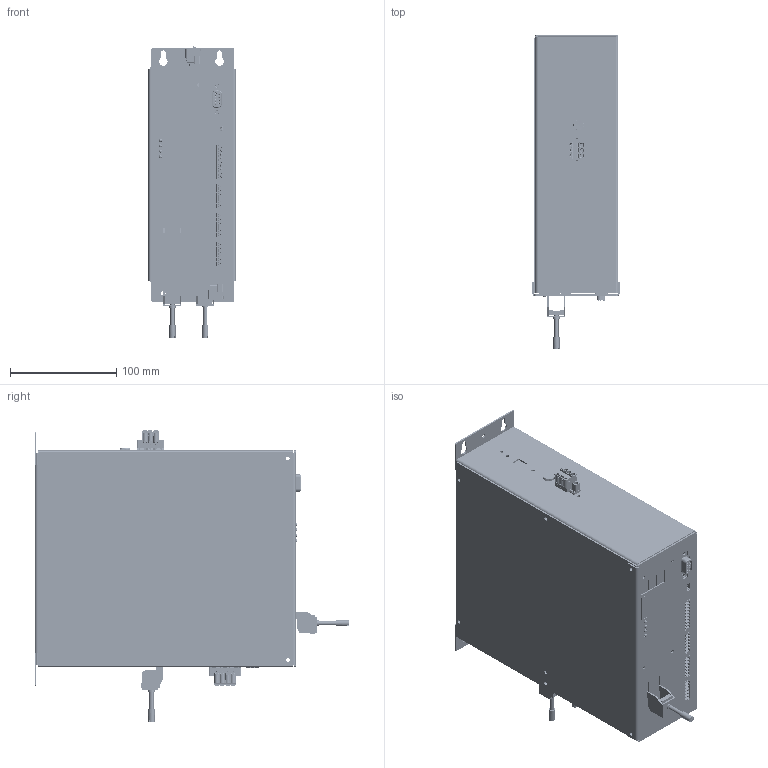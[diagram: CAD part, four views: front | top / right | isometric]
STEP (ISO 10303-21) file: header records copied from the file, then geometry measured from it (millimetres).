
FILE_DESCRIPTION(('FreeCAD Model'),'2;1');
FILE_NAME('Open CASCADE Shape Model','2026-02-13T08:12:03',(''),(''), 'Open CASCADE STEP processor 7.6','FreeCAD','Unknown');
FILE_SCHEMA(('AUTOMOTIVE_DESIGN { 1 0 10303 214 1 1 1 1 }'));
Length unit declared in the file: millimetre
Products named in the file (339): LinkGroup013; Deckel; DeckelblechV2; Front; Schirmklemme Front; SK14_select; FrontplatteV2; Frontplattenelektronik; LED003; LED002; LED001; LED; LED Balken; 7Segment002; 7Segment001; 7Segment; Body005; LinkGroup001; Shape; Shape001; Shape002; Shape003; Shape004; Shape005; Shape006; Shape007; Shape008; Shape009; Shape010; Shape011; Shape089; Shape090; Shape091; Shape092; Shape093; Shape094; Shape095; Shape096; Shape097; Shape098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
Assembly tree (338 placements, depth 5):
  LinkGroup013
    Deckel
      DeckelblechV2
    Front
      Schirmklemme Front
        SK14_select
      FrontplatteV2
      Frontplattenelektronik
        LED003
        LED002
        LED001
        LED
        LED Balken
        7Segment002
        7Segment001
        7Segment
        Body005
        LinkGroup001
          Shape
          Shape001
          Shape002
          Shape003
          Shape004
          Shape005
          Shape006
          Shape007
          Shape008
          Shape009
          Shape010
          Shape011
          Shape089
          Shape090
          Shape091
          Shape092
          Shape093
          Shape094
          Shape095
          Shape096
          Shape097
          Shape098
          Shape099
          Shape100
          Shape101
          Shape102
          Shape103
          Shape104
          Shape105
          Shape106
          Shape107
          Shape108
          Shape109
          Shape110
          Shape111
          Shape112
          Shape113
          Shape114
          Shape115
          Shape116
          Shape117
          Shape118
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Bounding box: 82.5 x 296.3 x 275.28 mm (x, y, z)
Volume: 324300.2 mm3; surface area: 429017.6 mm2
Topology: 84 solids, 84 shells, 9269 faces, 25377 edges, 17167 vertices
Faces by surface type: plane 6410, cylinder 2264, cone 275, bspline 164, torus 102, sphere 31, extrusion 19, revolution 4
Full cylindrical faces by diameter (mm): 0.242 x2, 0.281 x2, 0.6 x9, 0.8 x2, 0.9 x18, 1.6 x27, 1.65 x6, 1.7 x9, 1.92 x9, 1.96 x27, 1.99 x2, 2.3 x9, 3 x4, 3.1 x2, 3.2 x8, 3.4 x20, 3.5 x19, 3.567 x1, 3.592 x1, 3.594 x1, 3.595 x1, 3.9 x2, 4 x3, 4.06 x2, 4.2 x2, 4.6 x2, 6.5 x1, 8.066 x1, 11 x1
Entity records: 747543 total; most frequent: CARTESIAN_POINT 238454, DIRECTION 91969, VECTOR 60085, LINE 60066, ORIENTED_EDGE 49724, PCURVE 49724, DEFINITIONAL_REPRESENTATION 49724, EDGE_CURVE 24862
